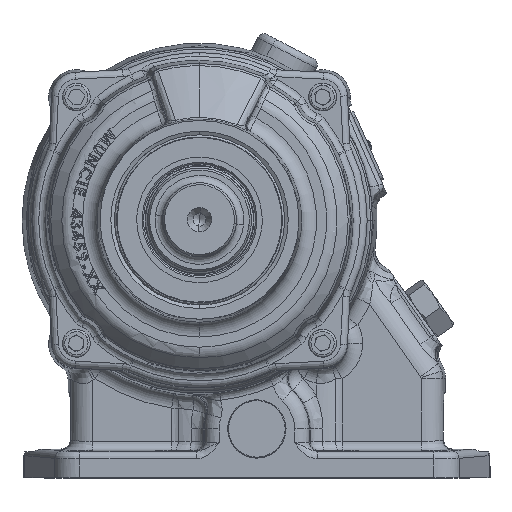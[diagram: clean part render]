
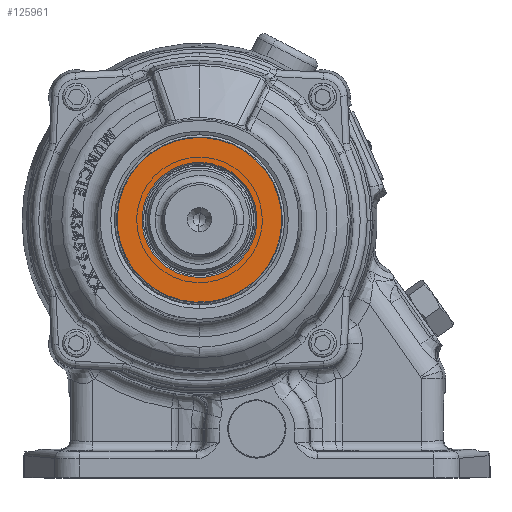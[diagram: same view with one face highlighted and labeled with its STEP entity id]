
A CAD part, top view. The second image highlights one B-rep face of the part: STEP entity #125961.
In plain terms, the highlighted planar face has unit normal (0, 0, 1).
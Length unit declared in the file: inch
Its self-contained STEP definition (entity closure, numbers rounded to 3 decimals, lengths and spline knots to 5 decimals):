
#8723 = VERTEX_POINT ( 'NONE', #146386 ) ;
#10240 = CARTESIAN_POINT ( 'NONE',  ( 0.97, 0., 0. ) ) ;
#11721 = CARTESIAN_POINT ( 'NONE',  ( -1.3895, 0., 0. ) ) ;
#13054 = DIRECTION ( 'NONE',  ( 0., 0., -1. ) ) ;
#19472 = EDGE_CURVE ( 'NONE', #8723, #26651, #34925, .T. ) ;
#21957 = DIRECTION ( 'NONE',  ( 0., 0., 1. ) ) ;
#26651 = VERTEX_POINT ( 'NONE', #11721 ) ;
#26820 = DIRECTION ( 'NONE',  ( 1., 0., 0. ) ) ;
#30525 = CARTESIAN_POINT ( 'NONE',  ( 0., 0., 0. ) ) ;
#34925 = CIRCLE ( 'NONE', #127989, 1.3895 ) ;
#51227 = EDGE_LOOP ( 'NONE', ( #120398, #140687 ) ) ;
#51649 = FACE_BOUND ( 'NONE', #51227, .T. ) ;
#56308 = EDGE_CURVE ( 'NONE', #145421, #57163, #83778, .T. ) ;
#57163 = VERTEX_POINT ( 'NONE', #134400 ) ;
#61402 = DIRECTION ( 'NONE',  ( 1., 0., 0. ) ) ;
#62383 = ORIENTED_EDGE ( 'NONE', *, *, #94615, .T. ) ;
#65332 = DIRECTION ( 'NONE',  ( 0., -1., 0. ) ) ;
#65397 = DIRECTION ( 'NONE',  ( 0., 0., 1. ) ) ;
#73199 = CARTESIAN_POINT ( 'NONE',  ( 0., 0., 0. ) ) ;
#78222 = PLANE ( 'NONE',  #126158 ) ;
#83778 = CIRCLE ( 'NONE', #103101, 0.97 ) ;
#86894 = DIRECTION ( 'NONE',  ( 1., 0., 0. ) ) ;
#87954 = CARTESIAN_POINT ( 'NONE',  ( 0., 0., 0. ) ) ;
#94615 = EDGE_CURVE ( 'NONE', #26651, #8723, #111097, .T. ) ;
#98795 = EDGE_CURVE ( 'NONE', #57163, #145421, #125546, .T. ) ;
#99048 = DIRECTION ( 'NONE',  ( 1., 0., 0. ) ) ;
#103101 = AXIS2_PLACEMENT_3D ( 'NONE', #73199, #152939, #86894 ) ;
#111097 = CIRCLE ( 'NONE', #119405, 1.3895 ) ;
#111102 = DIRECTION ( 'NONE',  ( 0., 0., 1. ) ) ;
#115119 = FACE_OUTER_BOUND ( 'NONE', #122354, .T. ) ;
#119405 = AXIS2_PLACEMENT_3D ( 'NONE', #143463, #65397, #26820 ) ;
#120398 = ORIENTED_EDGE ( 'NONE', *, *, #56308, .F. ) ;
#122354 = EDGE_LOOP ( 'NONE', ( #156171, #62383 ) ) ;
#125546 = CIRCLE ( 'NONE', #147463, 0.97 ) ;
#125961 = ADVANCED_FACE ( 'NONE', ( #115119, #51649 ), #78222, .F. ) ;
#126158 = AXIS2_PLACEMENT_3D ( 'NONE', #130526, #13054, #65332 ) ;
#127989 = AXIS2_PLACEMENT_3D ( 'NONE', #87954, #21957, #61402 ) ;
#130526 = CARTESIAN_POINT ( 'NONE',  ( 0., 0., 0. ) ) ;
#134400 = CARTESIAN_POINT ( 'NONE',  ( -0.97, 0., 0. ) ) ;
#140687 = ORIENTED_EDGE ( 'NONE', *, *, #98795, .F. ) ;
#143463 = CARTESIAN_POINT ( 'NONE',  ( 0., 0., 0. ) ) ;
#145421 = VERTEX_POINT ( 'NONE', #10240 ) ;
#146386 = CARTESIAN_POINT ( 'NONE',  ( 1.3895, 0., 0. ) ) ;
#147463 = AXIS2_PLACEMENT_3D ( 'NONE', #30525, #111102, #99048 ) ;
#152939 = DIRECTION ( 'NONE',  ( 0., 0., 1. ) ) ;
#156171 = ORIENTED_EDGE ( 'NONE', *, *, #19472, .T. ) ;
